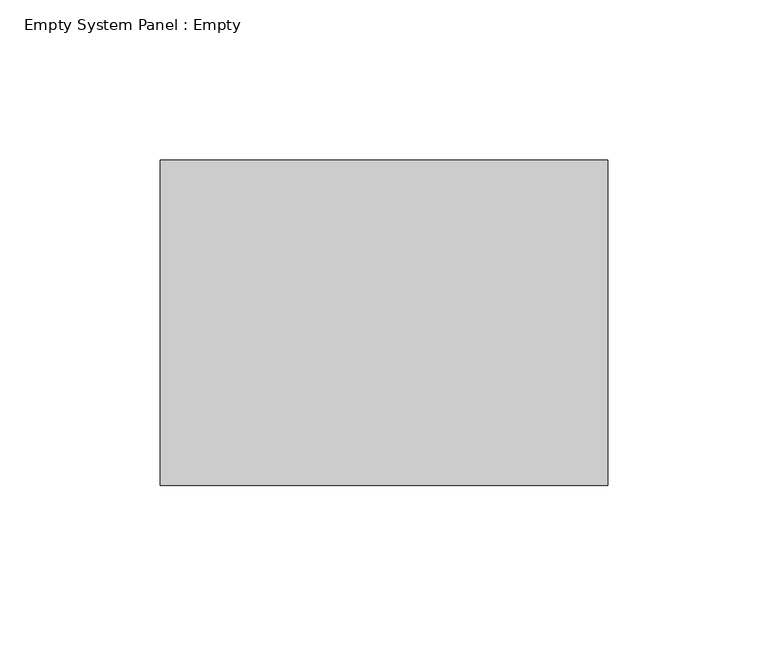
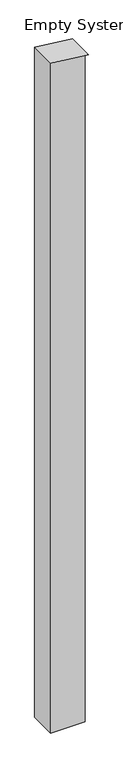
"""IFC4 building model written with IfcOpenShell, lengths in millimetres: plate geometry, Empty System Panel : Empty."""

from ifc_helpers import new_model, si_unit, frame, origin, place, context, project, spatial, polyline, outline, extrude, source, transform, mapped, element, save


def empty_system_panel_empty_eba4c5a3(model_context):
    return source(origin(), model_context, "Body", "SweptSolid", [
        extrude(outline(polyline([(0.0, -69.85), (0.0, 57.15), (2604.9913958, 57.15), (2604.9913958, 69.85), (2620.6165858, -69.85), (0.0, -69.85)])), frame((0.0, -50.8, 0.0), z_axis=(0.0, 1.0, 0.0), x_axis=(0.0, 0.0, 1.0)), (0.0, 0.0, 1.0), 101.6),
    ])


if __name__ == "__main__":
    model = new_model("IFC4")
    model_context = context("Model", 3, world=origin())
    ifc_project = project(units=[si_unit("LENGTHUNIT", "METRE", prefix="MILLI")], contexts=[model_context])
    site = spatial("IfcSite", under=ifc_project)
    building = spatial("IfcBuilding", under=site)
    placement = place(None, origin())
    empty_system_panel_empty_shape = empty_system_panel_empty_eba4c5a3(model_context)
    element("IfcPlate", 1, ObjectType="Empty System Panel : Empty", at=placement, inside=building, context=model_context, shape_type="MappedRepresentation", body=[
        mapped(empty_system_panel_empty_shape, transform((0.0, 0.0, 0.0), x_axis=(1.0, 0.0, 0.0), y_axis=(0.0, 1.0, 0.0), z_axis=(0.0, 0.0, 1.0))),
    ])
    save(model, "model.ifc")
